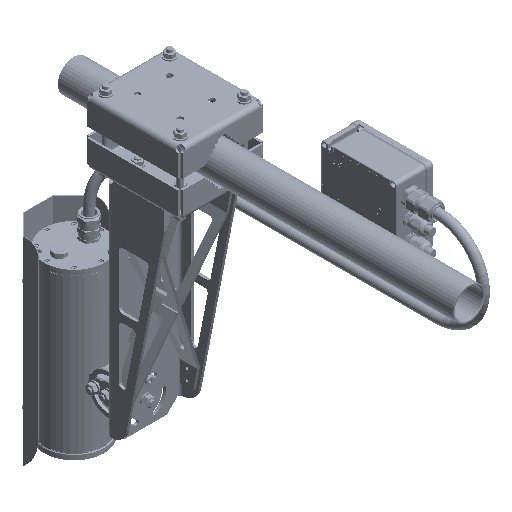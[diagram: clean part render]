
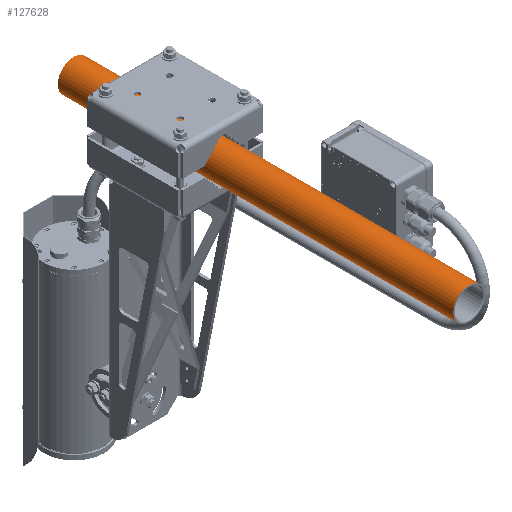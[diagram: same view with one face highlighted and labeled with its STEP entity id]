
A CAD part, isometric view. The second image highlights one B-rep face of the part: STEP entity #127628.
In plain terms, the highlighted cylindrical face has radius 30 mm (diameter 60 mm), a full revolution.
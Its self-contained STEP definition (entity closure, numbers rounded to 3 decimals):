
#18165=FACE_OUTER_BOUND('',#25649,.T.);
#25649=EDGE_LOOP('',(#108284,#108285,#108286,#108287));
#35991=LINE('',#248265,#47054);
#47054=VECTOR('',#160341,30.);
#52441=CIRCLE('',#137751,30.);
#52442=CIRCLE('',#137753,30.);
#61489=VERTEX_POINT('',#248260);
#61490=VERTEX_POINT('',#248263);
#77798=EDGE_CURVE('',#61489,#61489,#52441,.T.);
#77799=EDGE_CURVE('',#61490,#61490,#52442,.T.);
#77800=EDGE_CURVE('',#61490,#61489,#35991,.T.);
#108284=ORIENTED_EDGE('',*,*,#77799,.T.);
#108285=ORIENTED_EDGE('',*,*,#77800,.T.);
#108286=ORIENTED_EDGE('',*,*,#77798,.F.);
#108287=ORIENTED_EDGE('',*,*,#77800,.F.);
#122755=CYLINDRICAL_SURFACE('',#137752,30.);
#127628=ADVANCED_FACE('',(#18165),#122755,.T.);
#137751=AXIS2_PLACEMENT_3D('',#248261,#160335,#160336);
#137752=AXIS2_PLACEMENT_3D('',#248262,#160337,#160338);
#137753=AXIS2_PLACEMENT_3D('',#248264,#160339,#160340);
#160335=DIRECTION('center_axis',(0.,0.,-1.));
#160336=DIRECTION('ref_axis',(-1.,0.,0.));
#160337=DIRECTION('center_axis',(0.,0.,1.));
#160338=DIRECTION('ref_axis',(-1.,0.,0.));
#160339=DIRECTION('center_axis',(0.,0.,-1.));
#160340=DIRECTION('ref_axis',(-1.,0.,0.));
#160341=DIRECTION('',(0.,0.,-1.));
#248260=CARTESIAN_POINT('',(30.,0.,0.));
#248261=CARTESIAN_POINT('Origin',(0.,0.,0.));
#248262=CARTESIAN_POINT('Origin',(0.,0.,0.));
#248263=CARTESIAN_POINT('',(30.,0.,743.));
#248264=CARTESIAN_POINT('Origin',(0.,0.,743.));
#248265=CARTESIAN_POINT('',(30.,0.,0.));
